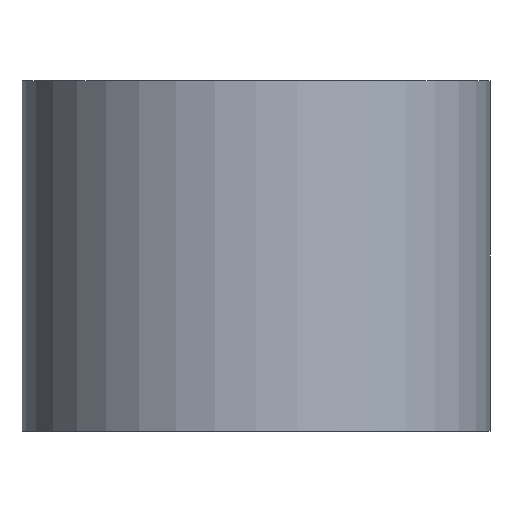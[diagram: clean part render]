
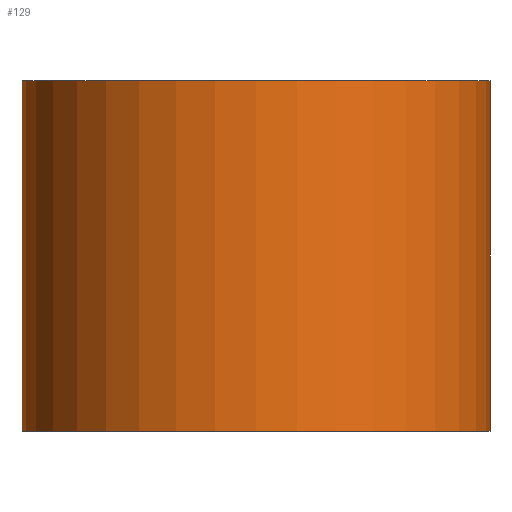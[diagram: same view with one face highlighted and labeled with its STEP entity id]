
A CAD part, front view. The second image highlights one B-rep face of the part: STEP entity #129.
In plain terms, the highlighted cylindrical face has radius 20 mm (diameter 40 mm), a partial arc.
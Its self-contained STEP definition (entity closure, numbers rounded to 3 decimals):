
#102=CYLINDRICAL_SURFACE('',#250,20.);
#108=FACE_OUTER_BOUND('',#150,.T.);
#113=LINE('',#337,#119);
#114=LINE('',#338,#120);
#119=VECTOR('',#295,1.);
#120=VECTOR('',#296,1.);
#129=ADVANCED_FACE('',(#108),#102,.T.);
#150=EDGE_LOOP('',(#183,#184,#185,#186));
#183=ORIENTED_EDGE('',*,*,#215,.F.);
#184=ORIENTED_EDGE('',*,*,#214,.T.);
#185=ORIENTED_EDGE('',*,*,#216,.T.);
#186=ORIENTED_EDGE('',*,*,#199,.F.);
#187=VERTEX_POINT('',#303);
#188=VERTEX_POINT('',#304);
#197=VERTEX_POINT('',#333);
#198=VERTEX_POINT('',#334);
#199=EDGE_CURVE('',#187,#188,#217,.T.);
#214=EDGE_CURVE('',#198,#197,#228,.T.);
#215=EDGE_CURVE('',#198,#187,#113,.T.);
#216=EDGE_CURVE('',#197,#188,#114,.T.);
#217=CIRCLE('',#230,20.);
#228=CIRCLE('',#247,20.);
#230=AXIS2_PLACEMENT_3D('',#302,#253,#254);
#247=AXIS2_PLACEMENT_3D('',#335,#291,#292);
#250=AXIS2_PLACEMENT_3D('',#340,#299,#300);
#253=DIRECTION('',(0.,0.,1.));
#254=DIRECTION('',(0.,1.,0.));
#291=DIRECTION('',(0.,0.,1.));
#292=DIRECTION('',(0.,1.,0.));
#295=DIRECTION('',(0.,0.,1.));
#296=DIRECTION('',(0.,0.,1.));
#299=DIRECTION('',(0.,0.,1.));
#300=DIRECTION('',(0.,-1.,0.));
#302=CARTESIAN_POINT('',(0.,0.,30.));
#303=CARTESIAN_POINT('',(-20.,0.,30.));
#304=CARTESIAN_POINT('',(20.,0.,30.));
#333=CARTESIAN_POINT('',(20.,0.,0.));
#334=CARTESIAN_POINT('',(-20.,0.,0.));
#335=CARTESIAN_POINT('',(0.,0.,0.));
#337=CARTESIAN_POINT('',(-20.,0.,0.));
#338=CARTESIAN_POINT('',(20.,0.,0.));
#340=CARTESIAN_POINT('',(0.,0.,0.));
